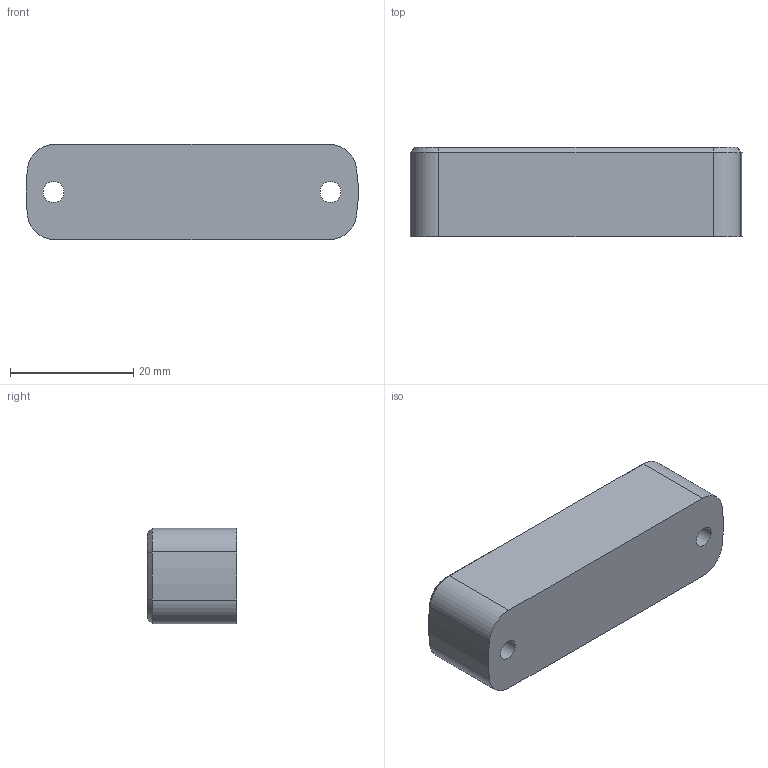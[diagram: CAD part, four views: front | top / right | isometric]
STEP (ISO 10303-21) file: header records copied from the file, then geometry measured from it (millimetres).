
FILE_DESCRIPTION( ( 'STEP AP203' ), '1' );
FILE_NAME( 'C:/Temp/Ganter_Step_05_03_2020/data/1_4/gn2283/Screw-on level GN 2283-ALN-54-G-50-AV.stp', '2020-03-05T10:48:05', ( 'License CC BY-ND 4.0' ), ( 'CADENAS' ), ' ', 'PARTsolutions', ' ' );
FILE_SCHEMA( ( 'CONFIG_CONTROL_DESIGN' ) );
Length unit declared in the file: millimetre
Products named in the file (1): _Screw-on level GN 2283-ALN-54-G-50-AV
Bounding box: 53.94 x 14.5 x 15.5 mm (x, y, z)
Volume: 11251.6 mm3; surface area: 4372.5 mm2
Topology: 1 solids, 1 shells, 50 faces, 112 edges, 70 vertices
Faces by surface type: plane 22, cylinder 18, cone 8, sphere 2
Full cylindrical faces by diameter (mm): 3.4 x2, 6.3 x2
Entity records: 1476 total; most frequent: CARTESIAN_POINT 289, DIRECTION 254, ORIENTED_EDGE 216, EDGE_CURVE 108, AXIS2_PLACEMENT_3D 99, VERTEX_POINT 70, EDGE_LOOP 64, LINE 56
